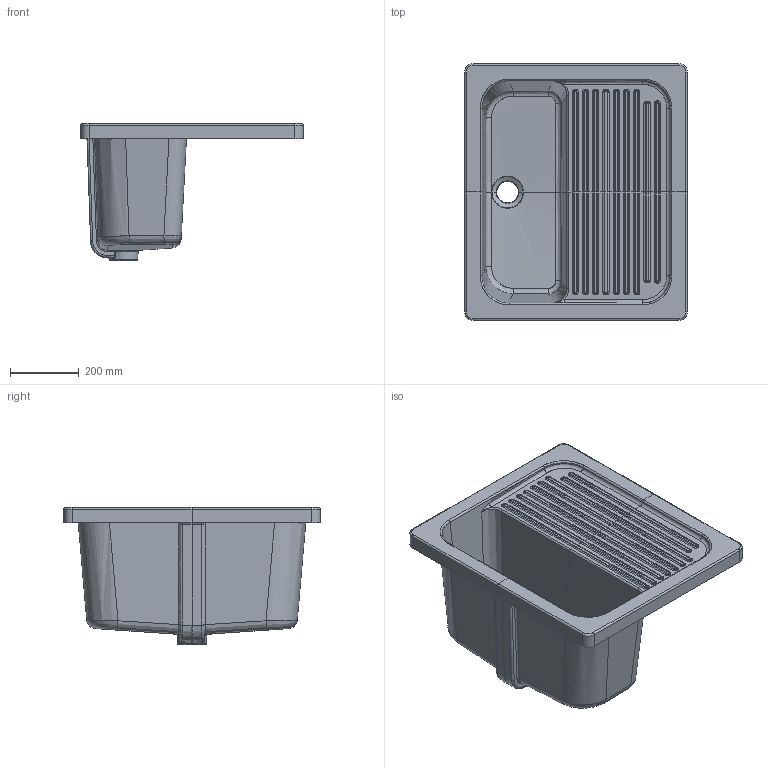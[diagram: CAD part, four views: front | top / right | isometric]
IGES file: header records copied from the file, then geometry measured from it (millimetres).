
Start section: START RECORD GO HERE.
Global section: file name: 2009_OSIRIDE MAX.igs; native system: DASSAULT SYSTEMES CATIA V5 R19 - www.3ds.com; preprocessor: CATIA Version 5 Release 19 SP 5 ; author: gioge; organization: LAPTOP-G94B6G74; date: 20200622.114505; units: millimetre
Bounding box: 650 x 750 x 400 mm (x, y, z)
Surface area: 2137390 mm2 (no closed solid volume)
Topology: 0 solids, 0 shells, 432 faces, 1996 edges, 1990 vertices
Faces by surface type: revolution 282, bspline 102, plane 48
